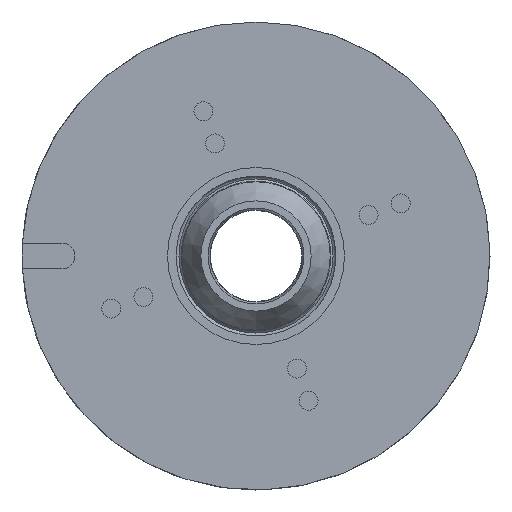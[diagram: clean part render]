
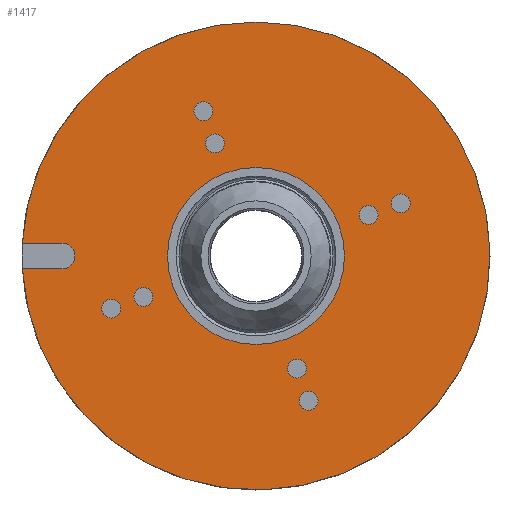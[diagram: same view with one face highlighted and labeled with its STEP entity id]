
A CAD part, left-side view. The second image highlights one B-rep face of the part: STEP entity #1417.
In plain terms, the highlighted planar face has unit normal (-1, 0, 0).
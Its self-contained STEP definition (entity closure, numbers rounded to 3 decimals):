
#46 = DIRECTION ( 'NONE',  ( 0., 0., 1. ) ) ;
#52 = EDGE_LOOP ( 'NONE', ( #69, #1728, #512, #1232 ) ) ;
#69 = ORIENTED_EDGE ( 'NONE', *, *, #1437, .T. ) ;
#75 = AXIS2_PLACEMENT_3D ( 'NONE', #1445, #580, #881 ) ;
#97 = CARTESIAN_POINT ( 'NONE',  ( 0., 25.372, -9.235 ) ) ;
#103 = FACE_BOUND ( 'NONE', #1018, .T. ) ;
#111 = EDGE_LOOP ( 'NONE', ( #1584 ) ) ;
#116 = EDGE_CURVE ( 'NONE', #1613, #1613, #883, .T. ) ;
#140 = CARTESIAN_POINT ( 'NONE',  ( 0., -19.734, 8.832 ) ) ;
#143 = EDGE_CURVE ( 'NONE', #1589, #1589, #1725, .T. ) ;
#153 = LINE ( 'NONE', #801, #944 ) ;
#155 = EDGE_CURVE ( 'NONE', #1875, #1875, #482, .T. ) ;
#162 = ORIENTED_EDGE ( 'NONE', *, *, #1463, .F. ) ;
#176 = DIRECTION ( 'NONE',  ( 0., 1., 0. ) ) ;
#179 = VERTEX_POINT ( 'NONE', #1854 ) ;
#189 = CARTESIAN_POINT ( 'NONE',  ( 0., -19.734, 7.182 ) ) ;
#233 = AXIS2_PLACEMENT_3D ( 'NONE', #97, #1444, #1470 ) ;
#243 = FACE_BOUND ( 'NONE', #1346, .T. ) ;
#273 = AXIS2_PLACEMENT_3D ( 'NONE', #715, #726, #564 ) ;
#285 = EDGE_CURVE ( 'NONE', #1923, #1923, #829, .T. ) ;
#342 = VECTOR ( 'NONE', #176, 1000. ) ;
#345 = EDGE_CURVE ( 'NONE', #1902, #1902, #1360, .T. ) ;
#353 = DIRECTION ( 'NONE',  ( 0., 0., 1. ) ) ;
#360 = CARTESIAN_POINT ( 'NONE',  ( 0., 9.235, 25.372 ) ) ;
#382 = EDGE_CURVE ( 'NONE', #1354, #1354, #1227, .T. ) ;
#404 = EDGE_CURVE ( 'NONE', #179, #1230, #1770, .T. ) ;
#460 = CARTESIAN_POINT ( 'NONE',  ( 0., 0., 15.5 ) ) ;
#469 = CARTESIAN_POINT ( 'NONE',  ( 0., 0., 0. ) ) ;
#479 = DIRECTION ( 'NONE',  ( 0., 0., 1. ) ) ;
#482 = CIRCLE ( 'NONE', #1291, 1.65 ) ;
#484 = EDGE_LOOP ( 'NONE', ( #1044 ) ) ;
#500 = FACE_BOUND ( 'NONE', #484, .T. ) ;
#511 = DIRECTION ( 'NONE',  ( 0., 0., 1. ) ) ;
#512 = ORIENTED_EDGE ( 'NONE', *, *, #1242, .F. ) ;
#550 = CIRCLE ( 'NONE', #1496, 1.65 ) ;
#564 = DIRECTION ( 'NONE',  ( 0., 0., -1. ) ) ;
#567 = CARTESIAN_POINT ( 'NONE',  ( 0., -7.182, -18.084 ) ) ;
#576 = ORIENTED_EDGE ( 'NONE', *, *, #285, .F. ) ;
#580 = DIRECTION ( 'NONE',  ( -1., 0., 0. ) ) ;
#593 = AXIS2_PLACEMENT_3D ( 'NONE', #469, #935, #479 ) ;
#594 = FACE_BOUND ( 'NONE', #906, .T. ) ;
#645 = VERTEX_POINT ( 'NONE', #1704 ) ;
#649 = ORIENTED_EDGE ( 'NONE', *, *, #382, .F. ) ;
#655 = DIRECTION ( 'NONE',  ( -1., 0., 0. ) ) ;
#658 = FACE_BOUND ( 'NONE', #1633, .T. ) ;
#715 = CARTESIAN_POINT ( 'NONE',  ( 0., 41., 0. ) ) ;
#726 = DIRECTION ( 'NONE',  ( 1., 0., 0. ) ) ;
#754 = CIRCLE ( 'NONE', #1148, 2.25 ) ;
#759 = DIRECTION ( 'NONE',  ( 0., 0., 1. ) ) ;
#761 = CARTESIAN_POINT ( 'NONE',  ( 0., 25.372, -7.585 ) ) ;
#767 = DIRECTION ( 'NONE',  ( -1., 0., 0. ) ) ;
#768 = EDGE_CURVE ( 'NONE', #1126, #1126, #1112, .T. ) ;
#801 = CARTESIAN_POINT ( 'NONE',  ( 0., 40.938, -2.25 ) ) ;
#802 = FACE_BOUND ( 'NONE', #1326, .T. ) ;
#811 = DIRECTION ( 'NONE',  ( -1., 0., 0. ) ) ;
#829 = CIRCLE ( 'NONE', #1351, 1.65 ) ;
#851 = FACE_BOUND ( 'NONE', #111, .T. ) ;
#881 = DIRECTION ( 'NONE',  ( 0., 0., 1. ) ) ;
#883 = CIRCLE ( 'NONE', #989, 1.65 ) ;
#906 = EDGE_LOOP ( 'NONE', ( #1755 ) ) ;
#926 = ORIENTED_EDGE ( 'NONE', *, *, #143, .F. ) ;
#935 = DIRECTION ( 'NONE',  ( -1., 0., 0. ) ) ;
#944 = VECTOR ( 'NONE', #1555, 1000. ) ;
#989 = AXIS2_PLACEMENT_3D ( 'NONE', #1246, #1080, #46 ) ;
#1018 = EDGE_LOOP ( 'NONE', ( #162 ) ) ;
#1024 = CARTESIAN_POINT ( 'NONE',  ( 0., 7.182, 21.384 ) ) ;
#1044 = ORIENTED_EDGE ( 'NONE', *, *, #345, .F. ) ;
#1058 = DIRECTION ( 'NONE',  ( 0., 0., 1. ) ) ;
#1059 = CARTESIAN_POINT ( 'NONE',  ( 0., 19.734, -5.532 ) ) ;
#1080 = DIRECTION ( 'NONE',  ( -1., 0., 0. ) ) ;
#1112 = CIRCLE ( 'NONE', #233, 1.65 ) ;
#1126 = VERTEX_POINT ( 'NONE', #761 ) ;
#1130 = AXIS2_PLACEMENT_3D ( 'NONE', #360, #1394, #511 ) ;
#1131 = FACE_OUTER_BOUND ( 'NONE', #52, .T. ) ;
#1148 = AXIS2_PLACEMENT_3D ( 'NONE', #1272, #811, #1542 ) ;
#1161 = PLANE ( 'NONE',  #273 ) ;
#1182 = CARTESIAN_POINT ( 'NONE',  ( 0., -25.372, 10.885 ) ) ;
#1222 = CARTESIAN_POINT ( 'NONE',  ( 0., 40.938, 2.25 ) ) ;
#1225 = CARTESIAN_POINT ( 'NONE',  ( 0., -9.235, -25.372 ) ) ;
#1227 = CIRCLE ( 'NONE', #593, 15.5 ) ;
#1230 = VERTEX_POINT ( 'NONE', #1222 ) ;
#1232 = ORIENTED_EDGE ( 'NONE', *, *, #1371, .F. ) ;
#1242 = EDGE_CURVE ( 'NONE', #645, #179, #754, .T. ) ;
#1246 = CARTESIAN_POINT ( 'NONE',  ( 0., 7.182, 19.734 ) ) ;
#1249 = FACE_BOUND ( 'NONE', #1727, .T. ) ;
#1272 = CARTESIAN_POINT ( 'NONE',  ( 0., 34., 0. ) ) ;
#1291 = AXIS2_PLACEMENT_3D ( 'NONE', #1548, #655, #1706 ) ;
#1304 = CARTESIAN_POINT ( 'NONE',  ( 0., 19.734, -7.182 ) ) ;
#1311 = DIRECTION ( 'NONE',  ( 0., 0., 1. ) ) ;
#1326 = EDGE_LOOP ( 'NONE', ( #649 ) ) ;
#1346 = EDGE_LOOP ( 'NONE', ( #926 ) ) ;
#1351 = AXIS2_PLACEMENT_3D ( 'NONE', #189, #767, #1058 ) ;
#1354 = VERTEX_POINT ( 'NONE', #460 ) ;
#1359 = CARTESIAN_POINT ( 'NONE',  ( 0., 34., 2.25 ) ) ;
#1360 = CIRCLE ( 'NONE', #1735, 1.65 ) ;
#1361 = EDGE_CURVE ( 'NONE', #1852, #1852, #550, .T. ) ;
#1371 = EDGE_CURVE ( 'NONE', #1824, #645, #153, .T. ) ;
#1381 = FACE_BOUND ( 'NONE', #1674, .T. ) ;
#1394 = DIRECTION ( 'NONE',  ( -1., 0., 0. ) ) ;
#1417 = ADVANCED_FACE ( 'NONE', ( #594, #500, #658, #243, #103, #1381, #1249, #851, #802, #1131 ), #1161, .F. ) ;
#1433 = ORIENTED_EDGE ( 'NONE', *, *, #155, .F. ) ;
#1437 = EDGE_CURVE ( 'NONE', #1824, #1230, #1594, .T. ) ;
#1444 = DIRECTION ( 'NONE',  ( -1., 0., 0. ) ) ;
#1445 = CARTESIAN_POINT ( 'NONE',  ( 0., 0., 0. ) ) ;
#1462 = CARTESIAN_POINT ( 'NONE',  ( 0., 9.235, 27.022 ) ) ;
#1463 = EDGE_CURVE ( 'NONE', #1523, #1523, #1546, .T. ) ;
#1470 = DIRECTION ( 'NONE',  ( 0., 0., 1. ) ) ;
#1496 = AXIS2_PLACEMENT_3D ( 'NONE', #1863, #1855, #353 ) ;
#1523 = VERTEX_POINT ( 'NONE', #1059 ) ;
#1542 = DIRECTION ( 'NONE',  ( 0., 0., 1. ) ) ;
#1546 = CIRCLE ( 'NONE', #1634, 1.65 ) ;
#1548 = CARTESIAN_POINT ( 'NONE',  ( 0., -7.182, -19.734 ) ) ;
#1555 = DIRECTION ( 'NONE',  ( 0., -1., 0. ) ) ;
#1584 = ORIENTED_EDGE ( 'NONE', *, *, #116, .F. ) ;
#1589 = VERTEX_POINT ( 'NONE', #1462 ) ;
#1594 = CIRCLE ( 'NONE', #75, 41. ) ;
#1613 = VERTEX_POINT ( 'NONE', #1024 ) ;
#1631 = CARTESIAN_POINT ( 'NONE',  ( 0., 40.938, -2.25 ) ) ;
#1633 = EDGE_LOOP ( 'NONE', ( #1887 ) ) ;
#1634 = AXIS2_PLACEMENT_3D ( 'NONE', #1304, #1757, #1311 ) ;
#1653 = DIRECTION ( 'NONE',  ( -1., 0., 0. ) ) ;
#1674 = EDGE_LOOP ( 'NONE', ( #1433 ) ) ;
#1704 = CARTESIAN_POINT ( 'NONE',  ( 0., 34., -2.25 ) ) ;
#1706 = DIRECTION ( 'NONE',  ( 0., 0., 1. ) ) ;
#1725 = CIRCLE ( 'NONE', #1130, 1.65 ) ;
#1727 = EDGE_LOOP ( 'NONE', ( #576 ) ) ;
#1728 = ORIENTED_EDGE ( 'NONE', *, *, #404, .F. ) ;
#1735 = AXIS2_PLACEMENT_3D ( 'NONE', #1225, #1653, #759 ) ;
#1755 = ORIENTED_EDGE ( 'NONE', *, *, #768, .F. ) ;
#1757 = DIRECTION ( 'NONE',  ( -1., 0., 0. ) ) ;
#1770 = LINE ( 'NONE', #1359, #342 ) ;
#1794 = CARTESIAN_POINT ( 'NONE',  ( 0., -9.235, -23.722 ) ) ;
#1824 = VERTEX_POINT ( 'NONE', #1631 ) ;
#1852 = VERTEX_POINT ( 'NONE', #1182 ) ;
#1854 = CARTESIAN_POINT ( 'NONE',  ( 0., 34., 2.25 ) ) ;
#1855 = DIRECTION ( 'NONE',  ( -1., 0., 0. ) ) ;
#1863 = CARTESIAN_POINT ( 'NONE',  ( 0., -25.372, 9.235 ) ) ;
#1875 = VERTEX_POINT ( 'NONE', #567 ) ;
#1887 = ORIENTED_EDGE ( 'NONE', *, *, #1361, .F. ) ;
#1902 = VERTEX_POINT ( 'NONE', #1794 ) ;
#1923 = VERTEX_POINT ( 'NONE', #140 ) ;
